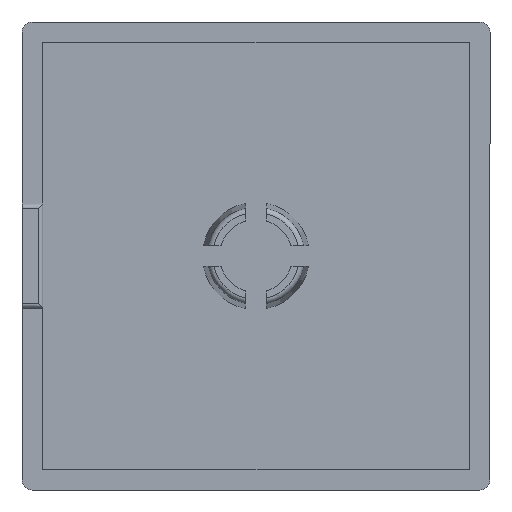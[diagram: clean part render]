
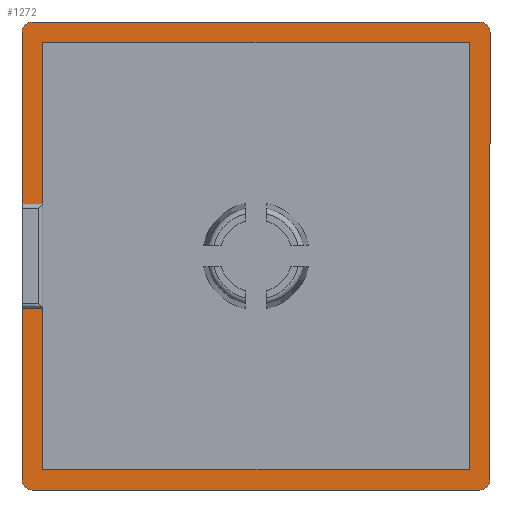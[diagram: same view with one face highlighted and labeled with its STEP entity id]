
A CAD part, front view. The second image highlights one B-rep face of the part: STEP entity #1272.
In plain terms, the highlighted planar face has unit normal (0, -1, 0).
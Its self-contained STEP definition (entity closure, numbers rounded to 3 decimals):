
#5 = VERTEX_POINT ( 'NONE', #41 ) ;
#12 = PLANE ( 'NONE',  #320 ) ;
#31 = EDGE_CURVE ( 'NONE', #829, #723, #623, .T. ) ;
#38 = CARTESIAN_POINT ( 'NONE',  ( -22.5, 0., -22.5 ) ) ;
#41 = CARTESIAN_POINT ( 'NONE',  ( 22.5, 0., 21.5 ) ) ;
#62 = CARTESIAN_POINT ( 'NONE',  ( -22.5, 0., 22.5 ) ) ;
#82 = CARTESIAN_POINT ( 'NONE',  ( -20.5, 0., -20.5 ) ) ;
#88 = VERTEX_POINT ( 'NONE', #1080 ) ;
#99 = LINE ( 'NONE', #167, #846 ) ;
#107 = ORIENTED_EDGE ( 'NONE', *, *, #1254, .F. ) ;
#110 = EDGE_CURVE ( 'NONE', #458, #385, #1464, .T. ) ;
#121 = CARTESIAN_POINT ( 'NONE',  ( -20.5, 0., 20.5 ) ) ;
#152 = VERTEX_POINT ( 'NONE', #1556 ) ;
#167 = CARTESIAN_POINT ( 'NONE',  ( 20.5, 0., 20.5 ) ) ;
#192 = CARTESIAN_POINT ( 'NONE',  ( -21.5, 0., 22.5 ) ) ;
#204 = VECTOR ( 'NONE', #997, 1000. ) ;
#205 = CARTESIAN_POINT ( 'NONE',  ( 21.5, 0., 21.5 ) ) ;
#219 = VERTEX_POINT ( 'NONE', #413 ) ;
#244 = DIRECTION ( 'NONE',  ( 1., 0., 0. ) ) ;
#247 = AXIS2_PLACEMENT_3D ( 'NONE', #863, #732, #1239 ) ;
#258 = ORIENTED_EDGE ( 'NONE', *, *, #613, .F. ) ;
#278 = ORIENTED_EDGE ( 'NONE', *, *, #1134, .T. ) ;
#279 = ORIENTED_EDGE ( 'NONE', *, *, #383, .F. ) ;
#285 = DIRECTION ( 'NONE',  ( 0., 0., 1. ) ) ;
#287 = LINE ( 'NONE', #708, #1362 ) ;
#289 = DIRECTION ( 'NONE',  ( 0., -1., 0. ) ) ;
#310 = CARTESIAN_POINT ( 'NONE',  ( 20.5, 0., 20.5 ) ) ;
#314 = FACE_OUTER_BOUND ( 'NONE', #1233, .T. ) ;
#320 = AXIS2_PLACEMENT_3D ( 'NONE', #588, #871, #596 ) ;
#321 = DIRECTION ( 'NONE',  ( -1., 0., 0. ) ) ;
#328 = LINE ( 'NONE', #624, #955 ) ;
#330 = DIRECTION ( 'NONE',  ( -1., 0., 0. ) ) ;
#333 = VECTOR ( 'NONE', #1147, 1000. ) ;
#334 = CARTESIAN_POINT ( 'NONE',  ( -21.5, 0., -21.5 ) ) ;
#371 = LINE ( 'NONE', #62, #333 ) ;
#383 = EDGE_CURVE ( 'NONE', #777, #219, #371, .T. ) ;
#385 = VERTEX_POINT ( 'NONE', #820 ) ;
#387 = AXIS2_PLACEMENT_3D ( 'NONE', #334, #1276, #1498 ) ;
#413 = CARTESIAN_POINT ( 'NONE',  ( 21.5, 0., 22.5 ) ) ;
#437 = ORIENTED_EDGE ( 'NONE', *, *, #1283, .F. ) ;
#455 = CARTESIAN_POINT ( 'NONE',  ( -22.5, 0., 21.5 ) ) ;
#458 = VERTEX_POINT ( 'NONE', #864 ) ;
#511 = VECTOR ( 'NONE', #1013, 1000. ) ;
#559 = VERTEX_POINT ( 'NONE', #1016 ) ;
#581 = ORIENTED_EDGE ( 'NONE', *, *, #937, .F. ) ;
#588 = CARTESIAN_POINT ( 'NONE',  ( 0., 0., 0. ) ) ;
#596 = DIRECTION ( 'NONE',  ( 0., 0., 1. ) ) ;
#602 = ORIENTED_EDGE ( 'NONE', *, *, #1352, .F. ) ;
#608 = CARTESIAN_POINT ( 'NONE',  ( 22.5, 0., -22.5 ) ) ;
#613 = EDGE_CURVE ( 'NONE', #935, #957, #287, .T. ) ;
#618 = DIRECTION ( 'NONE',  ( 0., 0., 1. ) ) ;
#622 = VERTEX_POINT ( 'NONE', #310 ) ;
#623 = LINE ( 'NONE', #1236, #204 ) ;
#624 = CARTESIAN_POINT ( 'NONE',  ( -22.5, 0., -22.5 ) ) ;
#671 = VECTOR ( 'NONE', #1617, 1000. ) ;
#682 = AXIS2_PLACEMENT_3D ( 'NONE', #1141, #1391, #618 ) ;
#702 = EDGE_CURVE ( 'NONE', #5, #88, #1135, .T. ) ;
#708 = CARTESIAN_POINT ( 'NONE',  ( -20.5, 0., 20.5 ) ) ;
#723 = VERTEX_POINT ( 'NONE', #750 ) ;
#732 = DIRECTION ( 'NONE',  ( 0., -1., 0. ) ) ;
#750 = CARTESIAN_POINT ( 'NONE',  ( -22.5, 0., -5. ) ) ;
#755 = VECTOR ( 'NONE', #321, 1000. ) ;
#776 = CARTESIAN_POINT ( 'NONE',  ( -20.5, 0., 5. ) ) ;
#777 = VERTEX_POINT ( 'NONE', #192 ) ;
#812 = ORIENTED_EDGE ( 'NONE', *, *, #110, .F. ) ;
#820 = CARTESIAN_POINT ( 'NONE',  ( -21.5, 0., -22.5 ) ) ;
#829 = VERTEX_POINT ( 'NONE', #1710 ) ;
#841 = VECTOR ( 'NONE', #1585, 1000. ) ;
#844 = AXIS2_PLACEMENT_3D ( 'NONE', #205, #289, #978 ) ;
#846 = VECTOR ( 'NONE', #330, 1000. ) ;
#863 = CARTESIAN_POINT ( 'NONE',  ( 21.5, 0., -21.5 ) ) ;
#864 = CARTESIAN_POINT ( 'NONE',  ( 21.5, 0., -22.5 ) ) ;
#871 = DIRECTION ( 'NONE',  ( 0., 1., 0. ) ) ;
#910 = CARTESIAN_POINT ( 'NONE',  ( -20.5, 0., 20.5 ) ) ;
#914 = EDGE_CURVE ( 'NONE', #152, #1280, #1667, .T. ) ;
#934 = CARTESIAN_POINT ( 'NONE',  ( -20.5, 0., -20.5 ) ) ;
#935 = VERTEX_POINT ( 'NONE', #121 ) ;
#937 = EDGE_CURVE ( 'NONE', #1280, #1068, #1624, .T. ) ;
#952 = CARTESIAN_POINT ( 'NONE',  ( -22.5, 0., -5. ) ) ;
#955 = VECTOR ( 'NONE', #285, 1000. ) ;
#957 = VERTEX_POINT ( 'NONE', #776 ) ;
#978 = DIRECTION ( 'NONE',  ( 0., 0., 1. ) ) ;
#983 = VECTOR ( 'NONE', #1297, 1000. ) ;
#997 = DIRECTION ( 'NONE',  ( 0., 0., 1. ) ) ;
#1013 = DIRECTION ( 'NONE',  ( 0., 0., -1. ) ) ;
#1015 = CIRCLE ( 'NONE', #247, 1. ) ;
#1016 = CARTESIAN_POINT ( 'NONE',  ( -22.5, 0., 5. ) ) ;
#1029 = ORIENTED_EDGE ( 'NONE', *, *, #1218, .F. ) ;
#1047 = EDGE_CURVE ( 'NONE', #559, #1560, #328, .T. ) ;
#1068 = VERTEX_POINT ( 'NONE', #1300 ) ;
#1074 = VECTOR ( 'NONE', #1202, 1000. ) ;
#1080 = CARTESIAN_POINT ( 'NONE',  ( 22.5, 0., -21.5 ) ) ;
#1088 = CARTESIAN_POINT ( 'NONE',  ( 20.5, 0., -20.5 ) ) ;
#1096 = EDGE_CURVE ( 'NONE', #829, #385, #1188, .T. ) ;
#1116 = ORIENTED_EDGE ( 'NONE', *, *, #702, .F. ) ;
#1134 = EDGE_CURVE ( 'NONE', #777, #1560, #1410, .T. ) ;
#1135 = LINE ( 'NONE', #608, #511 ) ;
#1141 = CARTESIAN_POINT ( 'NONE',  ( -21.5, 0., 21.5 ) ) ;
#1147 = DIRECTION ( 'NONE',  ( 1., 0., 0. ) ) ;
#1188 = CIRCLE ( 'NONE', #387, 1. ) ;
#1195 = ORIENTED_EDGE ( 'NONE', *, *, #914, .F. ) ;
#1202 = DIRECTION ( 'NONE',  ( 0., 0., 1. ) ) ;
#1218 = EDGE_CURVE ( 'NONE', #723, #152, #1519, .T. ) ;
#1223 = CARTESIAN_POINT ( 'NONE',  ( -22.5, 0., 5. ) ) ;
#1233 = EDGE_LOOP ( 'NONE', ( #107, #258, #437, #602, #581, #1195, #1029, #1351, #1279, #812, #1367, #1116, #1616, #279, #278, #1397 ) ) ;
#1236 = CARTESIAN_POINT ( 'NONE',  ( -22.5, 0., -22.5 ) ) ;
#1239 = DIRECTION ( 'NONE',  ( 0., 0., 1. ) ) ;
#1254 = EDGE_CURVE ( 'NONE', #957, #559, #1313, .T. ) ;
#1272 = ADVANCED_FACE ( 'NONE', ( #314 ), #12, .F. ) ;
#1276 = DIRECTION ( 'NONE',  ( 0., -1., 0. ) ) ;
#1279 = ORIENTED_EDGE ( 'NONE', *, *, #1096, .T. ) ;
#1280 = VERTEX_POINT ( 'NONE', #934 ) ;
#1283 = EDGE_CURVE ( 'NONE', #622, #935, #99, .T. ) ;
#1290 = CIRCLE ( 'NONE', #844, 1. ) ;
#1297 = DIRECTION ( 'NONE',  ( 0., 0., -1. ) ) ;
#1300 = CARTESIAN_POINT ( 'NONE',  ( 20.5, 0., -20.5 ) ) ;
#1313 = LINE ( 'NONE', #1223, #755 ) ;
#1351 = ORIENTED_EDGE ( 'NONE', *, *, #31, .F. ) ;
#1352 = EDGE_CURVE ( 'NONE', #1068, #622, #1654, .T. ) ;
#1362 = VECTOR ( 'NONE', #1559, 1000. ) ;
#1367 = ORIENTED_EDGE ( 'NONE', *, *, #1718, .T. ) ;
#1391 = DIRECTION ( 'NONE',  ( 0., -1., 0. ) ) ;
#1397 = ORIENTED_EDGE ( 'NONE', *, *, #1047, .F. ) ;
#1410 = CIRCLE ( 'NONE', #682, 1. ) ;
#1447 = VECTOR ( 'NONE', #244, 1000. ) ;
#1464 = LINE ( 'NONE', #38, #841 ) ;
#1498 = DIRECTION ( 'NONE',  ( 0., 0., 1. ) ) ;
#1519 = LINE ( 'NONE', #952, #671 ) ;
#1556 = CARTESIAN_POINT ( 'NONE',  ( -20.5, 0., -5. ) ) ;
#1559 = DIRECTION ( 'NONE',  ( 0., 0., -1. ) ) ;
#1560 = VERTEX_POINT ( 'NONE', #455 ) ;
#1585 = DIRECTION ( 'NONE',  ( -1., 0., 0. ) ) ;
#1616 = ORIENTED_EDGE ( 'NONE', *, *, #1652, .T. ) ;
#1617 = DIRECTION ( 'NONE',  ( 1., 0., 0. ) ) ;
#1624 = LINE ( 'NONE', #82, #1447 ) ;
#1652 = EDGE_CURVE ( 'NONE', #5, #219, #1290, .T. ) ;
#1654 = LINE ( 'NONE', #1088, #1074 ) ;
#1667 = LINE ( 'NONE', #910, #983 ) ;
#1710 = CARTESIAN_POINT ( 'NONE',  ( -22.5, 0., -21.5 ) ) ;
#1718 = EDGE_CURVE ( 'NONE', #458, #88, #1015, .T. ) ;
